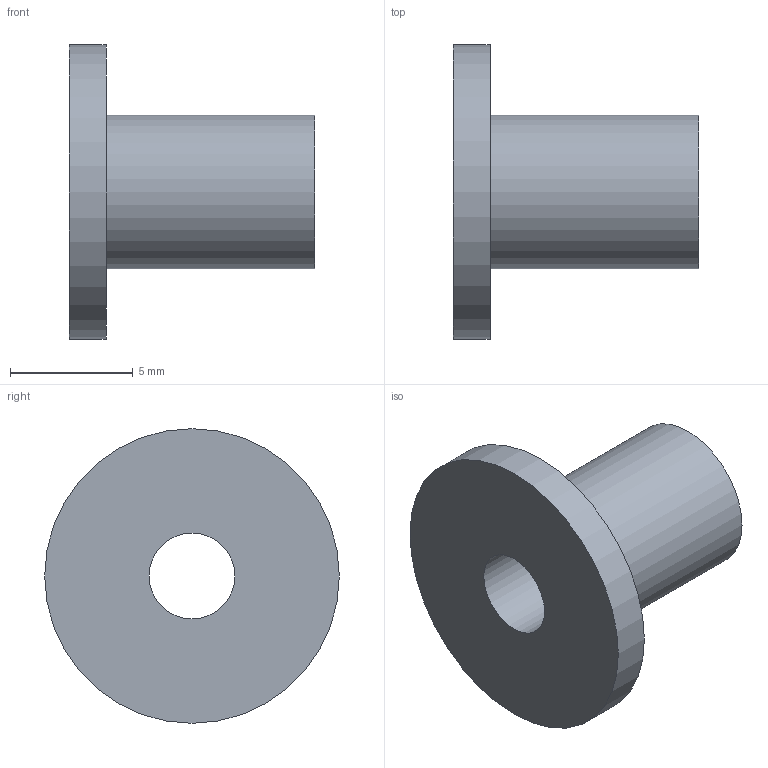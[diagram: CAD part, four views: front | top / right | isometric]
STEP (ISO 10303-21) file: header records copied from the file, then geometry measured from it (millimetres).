
FILE_DESCRIPTION(/* description */ ('STEP AP242','CAx-IF Rec.Pracs.---Representation and Presentation of Product Manufacturing Information (PMI)---4.0---2014-10-13','CAx-IF Rec.Pracs.---3D Tessellated Geometry---0.4---2014-09-14','2;1'),/* implementation_level */ '2;1');
FILE_NAME(/* name */ '6892d090eb96234880dab3d2',/* time_stamp */ '2025-08-06T03:48:34Z',/* author */ (''),/* organization */ (''),/* preprocessor_version */ 'ST-DEVELOPER v20',/* originating_system */ 'ONSHAPE BY PTC INC, 1.201',/* authorisation */ ' ');
FILE_SCHEMA (('AP242_MANAGED_MODEL_BASED_3D_ENGINEERING_MIM_LF { 1 0 10303 442 1 1 4 }'));
Length unit declared in the file: metre
Products named in the file (1): WTS Grommet
Bounding box: 10 x 12 x 12 mm (x, y, z)
Volume: 334.2 mm3; surface area: 540.4 mm2
Topology: 1 solids, 1 shells, 6 faces, 9 edges, 6 vertices
Faces by surface type: cylinder 3, plane 3
Full cylindrical faces by diameter (mm): 3.5 x1, 6.25 x1, 12 x1
Entity records: 150 total; most frequent: DIRECTION 26, CARTESIAN_POINT 19, AXIS2_PLACEMENT_3D 13, ORIENTED_EDGE 12, EDGE_LOOP 12, FACE_BOUND 12, EDGE_CURVE 6, VERTEX_POINT 6
